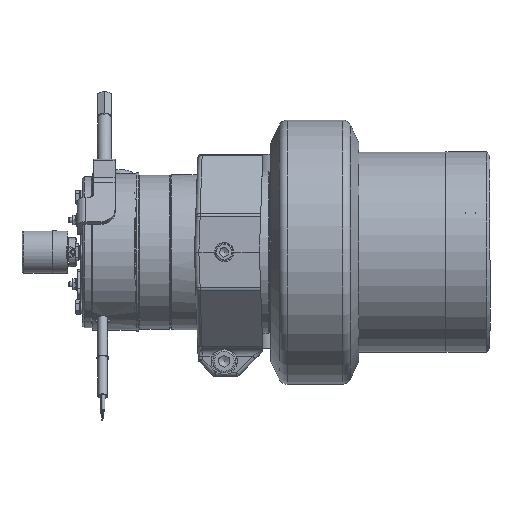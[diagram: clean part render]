
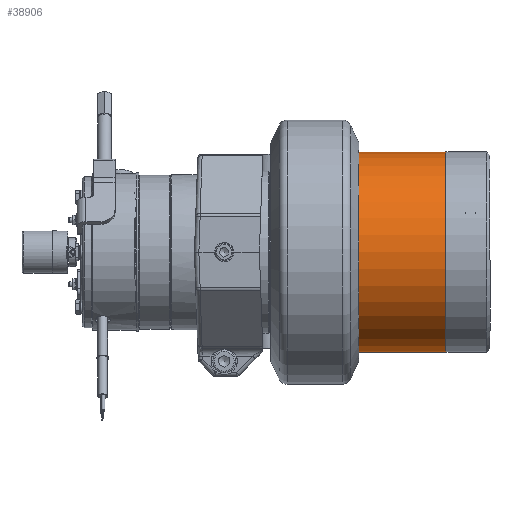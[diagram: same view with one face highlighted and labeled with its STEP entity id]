
A CAD part, front view. The second image highlights one B-rep face of the part: STEP entity #38906.
In plain terms, the highlighted cylindrical face has radius 56.75 mm (diameter 113.5 mm), a full revolution.
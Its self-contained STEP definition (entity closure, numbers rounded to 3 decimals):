
#4525=FACE_OUTER_BOUND('',#7008,.T.);
#7008=EDGE_LOOP('',(#31023,#31024,#31025,#31026));
#9714=LINE('',#71283,#12189);
#12189=VECTOR('',#50783,56.75);
#13927=CIRCLE('',#42281,56.75);
#13928=CIRCLE('',#42282,56.75);
#17088=VERTEX_POINT('',#71280);
#17089=VERTEX_POINT('',#71282);
#21862=EDGE_CURVE('',#17088,#17088,#13927,.T.);
#21863=EDGE_CURVE('',#17088,#17089,#9714,.T.);
#21864=EDGE_CURVE('',#17089,#17089,#13928,.T.);
#31023=ORIENTED_EDGE('',*,*,#21862,.F.);
#31024=ORIENTED_EDGE('',*,*,#21863,.T.);
#31025=ORIENTED_EDGE('',*,*,#21864,.T.);
#31026=ORIENTED_EDGE('',*,*,#21863,.F.);
#34908=CYLINDRICAL_SURFACE('',#42280,56.75);
#38906=ADVANCED_FACE('',(#4525),#34908,.T.);
#42280=AXIS2_PLACEMENT_3D('',#71279,#50779,#50780);
#42281=AXIS2_PLACEMENT_3D('',#71281,#50781,#50782);
#42282=AXIS2_PLACEMENT_3D('',#71284,#50784,#50785);
#50779=DIRECTION('center_axis',(1.,0.,0.));
#50780=DIRECTION('ref_axis',(0.,-1.,0.));
#50781=DIRECTION('center_axis',(1.,0.,0.));
#50782=DIRECTION('ref_axis',(0.,0.,
1.));
#50783=DIRECTION('',(-1.,0.,0.));
#50784=DIRECTION('center_axis',(1.,0.,0.));
#50785=DIRECTION('ref_axis',(0.,0.,
1.));
#71279=CARTESIAN_POINT('Origin',(64.337,0.,
0.));
#71280=CARTESIAN_POINT('',(89.087,56.75,0.));
#71281=CARTESIAN_POINT('Origin',(89.087,0.,
0.));
#71282=CARTESIAN_POINT('',(39.587,56.75,0.));
#71283=CARTESIAN_POINT('',(64.337,56.75,0.));
#71284=CARTESIAN_POINT('Origin',(39.587,0.,
0.));
